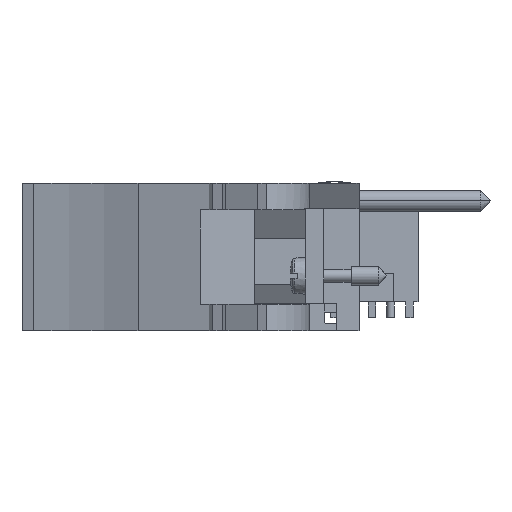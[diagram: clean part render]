
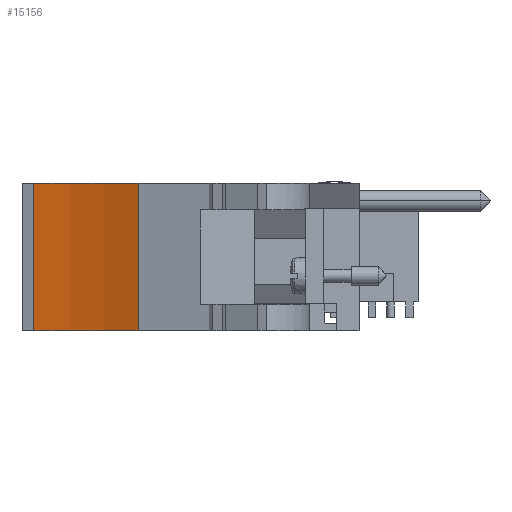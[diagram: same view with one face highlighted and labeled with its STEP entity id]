
A CAD part, front view. The second image highlights one B-rep face of the part: STEP entity #15156.
In plain terms, the highlighted cylindrical face has radius 51.46 mm (diameter 102.919 mm), a partial arc.
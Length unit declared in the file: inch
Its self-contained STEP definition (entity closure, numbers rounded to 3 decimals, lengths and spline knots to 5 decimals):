
#385=DIRECTION('',(0.,0.,1.));
#386=VECTOR('',#385,0.788);
#387=CARTESIAN_POINT('',(-1.09548,-4.1262,
-0.093));
#388=LINE('',#387,#386);
#446=CARTESIAN_POINT('',(-1.97678,-5.95044,
-0.093));
#447=DIRECTION('',(0.,0.,1.));
#448=DIRECTION('',(0.435,0.9,0.));
#449=AXIS2_PLACEMENT_3D('',#446,#447,#448);
#837=CARTESIAN_POINT('',(-1.97678,-5.95044,
0.695));
#838=DIRECTION('',(0.,0.,1.));
#839=DIRECTION('',(0.435,0.9,0.));
#840=AXIS2_PLACEMENT_3D('',#837,#838,#839);
#1153=DIRECTION('',(0.,0.,1.));
#1154=VECTOR('',#1153,0.788);
#1155=CARTESIAN_POINT('',(-1.65345,-3.95044,
-0.093));
#1156=LINE('',#1155,#1154);
#14062=CARTESIAN_POINT('',(-1.09548,-4.1262,
-0.093));
#14063=CARTESIAN_POINT('',(-1.65345,-3.95044,
-0.093));
#14064=VERTEX_POINT('',#14062);
#14065=VERTEX_POINT('',#14063);
#14066=CARTESIAN_POINT('',(-1.09548,-4.1262,
0.695));
#14067=CARTESIAN_POINT('',(-1.65345,-3.95044,
0.695));
#14068=VERTEX_POINT('',#14066);
#14069=VERTEX_POINT('',#14067);
#15142=CARTESIAN_POINT('',(-1.97678,-5.95044,
0.695));
#15143=DIRECTION('',(0.,0.,1.));
#15144=DIRECTION('',(0.,1.,0.));
#15145=AXIS2_PLACEMENT_3D('',#15142,#15143,#15144);
#15146=CYLINDRICAL_SURFACE('',#15145,2.02597);
#15148=ORIENTED_EDGE('',*,*,#15147,.T.);
#15150=ORIENTED_EDGE('',*,*,#15149,.T.);
#15152=ORIENTED_EDGE('',*,*,#15151,.F.);
#15153=ORIENTED_EDGE('',*,*,#15125,.F.);
#15154=EDGE_LOOP('',(#15148,#15150,#15152,#15153));
#15155=FACE_OUTER_BOUND('',#15154,.F.);
#15156=ADVANCED_FACE('',(#15155),#15146,.F.);
#450=CIRCLE('',#449,2.02597);
#841=CIRCLE('',#840,2.02597);
#15125=EDGE_CURVE('',#14064,#14068,#388,.T.);
#15147=EDGE_CURVE('',#14064,#14065,#450,.T.);
#15149=EDGE_CURVE('',#14065,#14069,#1156,.T.);
#15151=EDGE_CURVE('',#14068,#14069,#841,.T.);
